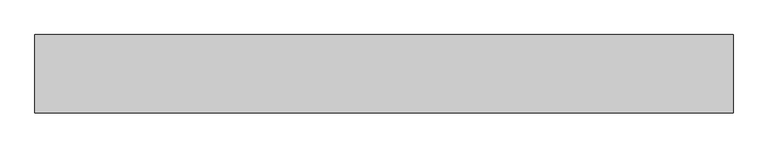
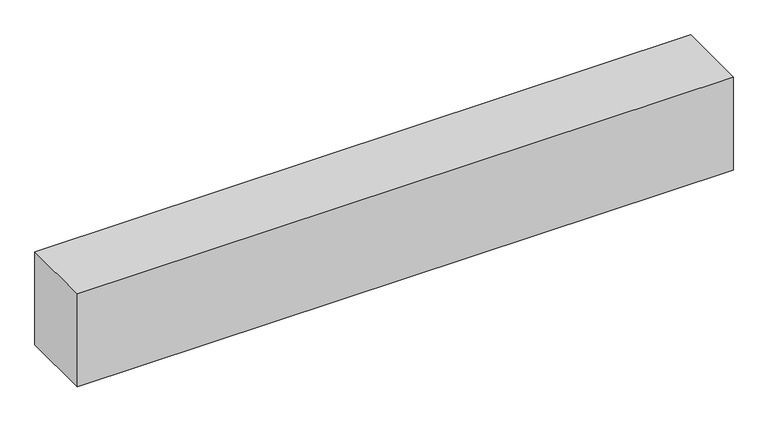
"""IFC4 building model written with IfcOpenShell, lengths in millimetres: beam geometry, NS R30 180x240x1600 : NS R30 180x240x1600."""

from ifc_helpers import new_model, si_unit, origin, origin_with_axes, place, context, project, spatial, polyline, outline, extrude, source, transform, mapped, element, save


def beam_a7b64b72(model_context):
    return source(origin(), model_context, "Body", "SweptSolid", [
        extrude(outline(polyline([(-800.0, -90.0), (-800.0, 90.0), (800.0, 90.0), (800.0, -90.0), (-800.0, -90.0)])), origin_with_axes(), (0.0, 0.0, 1.0), 240.0),
    ])


if __name__ == "__main__":
    model = new_model("IFC4")
    model_context = context("Model", 3, world=origin())
    ifc_project = project(units=[si_unit("LENGTHUNIT", "METRE", prefix="MILLI")], contexts=[model_context])
    site = spatial("IfcSite", under=ifc_project)
    building = spatial("IfcBuilding", under=site)
    placement = place(None, origin())
    beam_shape = beam_a7b64b72(model_context)
    element("IfcBeam", 1, ObjectType="NS R30 180x240x1600 : NS R30 180x240x1600", at=placement, inside=building, context=model_context, shape_type="MappedRepresentation", body=[
        mapped(beam_shape, transform((0.0, 0.0, 0.0), x_axis=(1.0, 0.0, 0.0), y_axis=(0.0, 1.0, 0.0), z_axis=(0.0, 0.0, 1.0))),
    ])
    save(model, "model.ifc")
